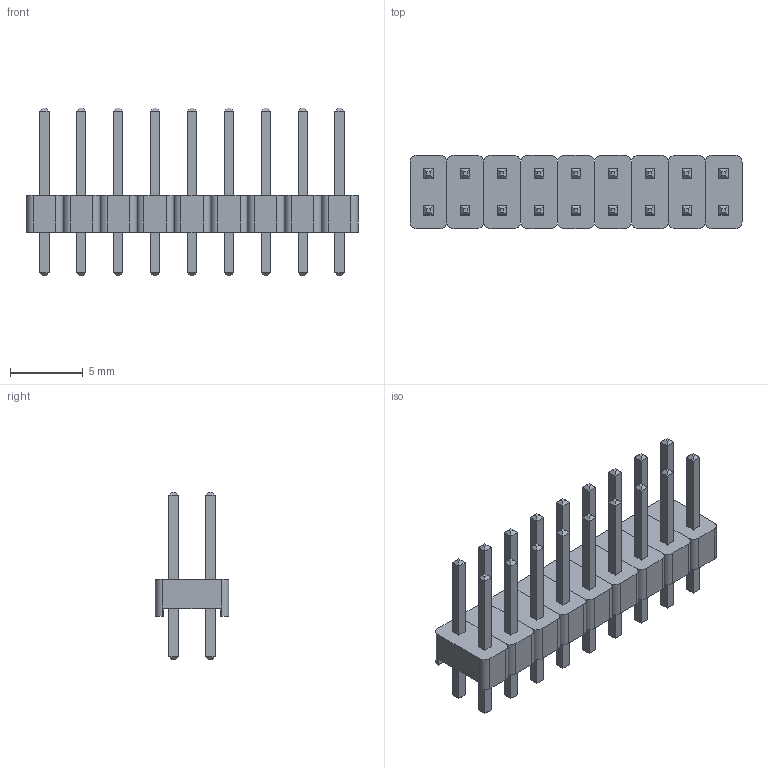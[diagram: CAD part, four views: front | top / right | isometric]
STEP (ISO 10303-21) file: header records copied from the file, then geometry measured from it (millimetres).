
FILE_DESCRIPTION(('FreeCAD Model'),'2;1');
FILE_NAME('Open CASCADE Shape Model','2022-04-06T15:56:18',( 'Engenharia Metaltex'),('Metaltex'), 'Open CASCADE STEP processor 7.5','FreeCAD','Unknown');
FILE_SCHEMA(('AUTOMOTIVE_DESIGN { 1 0 10303 214 1 1 1 1 }'));
Length unit declared in the file: millimetre
Products named in the file (37): BPDC; 1; Base; Pino1; Pino2; 2; Base001; Pino003; Pino004; 3; Base002; Pino006; Pino005; 4; Base003; Pino008; Pino007; 5; Base004; Pino009; Pino010; 6; Base005; Pino012; Pino011; 7; Base006; Pino013; Pino014; 8; Base007; Pino015; Pino016; 9; Base008; Pino017; Pino018
Assembly tree (36 placements, depth 3):
  BPDC
    1
      Base
      Pino1
      Pino2
    2
      Base001
      Pino003
      Pino004
    3
      Base002
      Pino006
      Pino005
    4
      Base003
      Pino008
      Pino007
    5
      Base004
      Pino009
      Pino010
    6
      Base005
      Pino012
      Pino011
    7
      Base006
      Pino013
      Pino014
    8
      Base007
      Pino015
      Pino016
    9
      Base008
      Pino017
      Pino018
Bounding box: 22.86 x 5.08 x 11.54 mm (x, y, z)
Volume: 314.3 mm3; surface area: 1157.7 mm2
Topology: 27 solids, 27 shells, 450 faces, 1044 edges, 648 vertices
Faces by surface type: plane 414, cylinder 36
Entity records: 27019 total; most frequent: CARTESIAN_POINT 4483, DIRECTION 4142, LINE 2988, VECTOR 2988, ORIENTED_EDGE 2088, PCURVE 2088, DEFINITIONAL_REPRESENTATION 2088, EDGE_CURVE 1044
